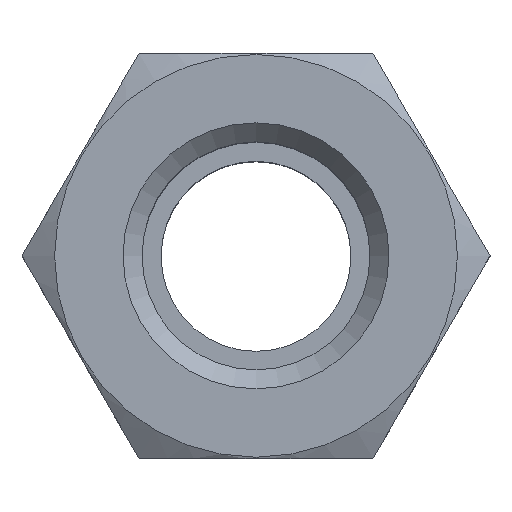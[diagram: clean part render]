
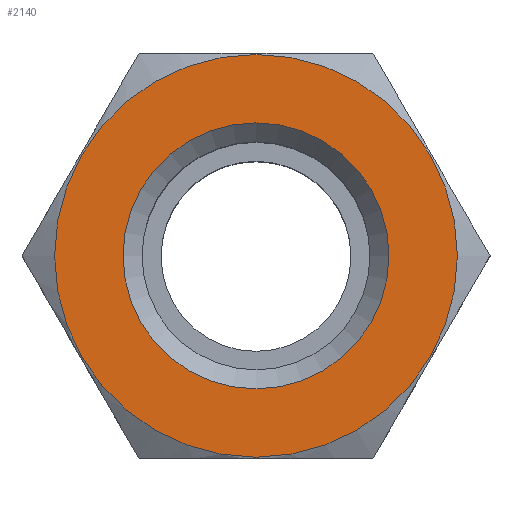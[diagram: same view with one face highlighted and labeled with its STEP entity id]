
A CAD part, top view. The second image highlights one B-rep face of the part: STEP entity #2140.
In plain terms, the highlighted planar face has unit normal (0, 0, 1).
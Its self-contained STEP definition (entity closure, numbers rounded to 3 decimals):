
#2140=ADVANCED_FACE('', (#2150,#2160), #2170, .T.);
#6470=AXIS2_PLACEMENT_3D('Ax2Pl3d', #6480, #6490, #6500);
#6790=AXIS2_PLACEMENT_3D('Ax2Pl3d', #6800, #6810, #6820);
#6830=AXIS2_PLACEMENT_3D('Ax2Pl3d', #6840, #6850, #6860);
#6480=CARTESIAN_POINT('HicPkt', (25.741,16.076,54.495))
;
#9830=CARTESIAN_POINT('', (25.741,0.176,54.495));
#6800=CARTESIAN_POINT('HicPkt', (41.641,16.076,54.495))
;
#6840=CARTESIAN_POINT('HicPkt', (25.741,16.076,54.495))
;
#9870=CARTESIAN_POINT('', (25.741,26.576,54.495));
#10320=CIRCLE('Circle', #6470, 15.9);
#10360=CIRCLE('Circle', #6830, 10.5);
#6490=DIRECTION('Axis', (0.,0.,-1.));
#6500=DIRECTION('RefDirection', (-1.,-0.,0.));
#6810=DIRECTION('Axis', (0.,0.,1.));
#6820=DIRECTION('RefDirection', (1.,0.,-0.));
#6850=DIRECTION('Axis', (0.,0.,-1.));
#6860=DIRECTION('RefDirection', (-1.,-0.,0.));
#15370=EDGE_CURVE('', #15380, #15380, #10320, .T.);
#15450=EDGE_CURVE('', #15460, #15460, #10360, .T.);
#18190=EDGE_LOOP('Edge_loop', (#18200));
#18210=EDGE_LOOP('Edge_loop', (#18220));
#2160=FACE_BOUND('', #18210, .T.);
#2150=FACE_OUTER_BOUND('Face_outer_bound', #18190, .T.);
#18200=ORIENTED_EDGE('', *, *, #15370, .F.);
#18220=ORIENTED_EDGE('', *, *, #15450, .T.);
#2170=PLANE('Plane', #6790);
#15380=VERTEX_POINT('', #9830);
#15460=VERTEX_POINT('', #9870);
